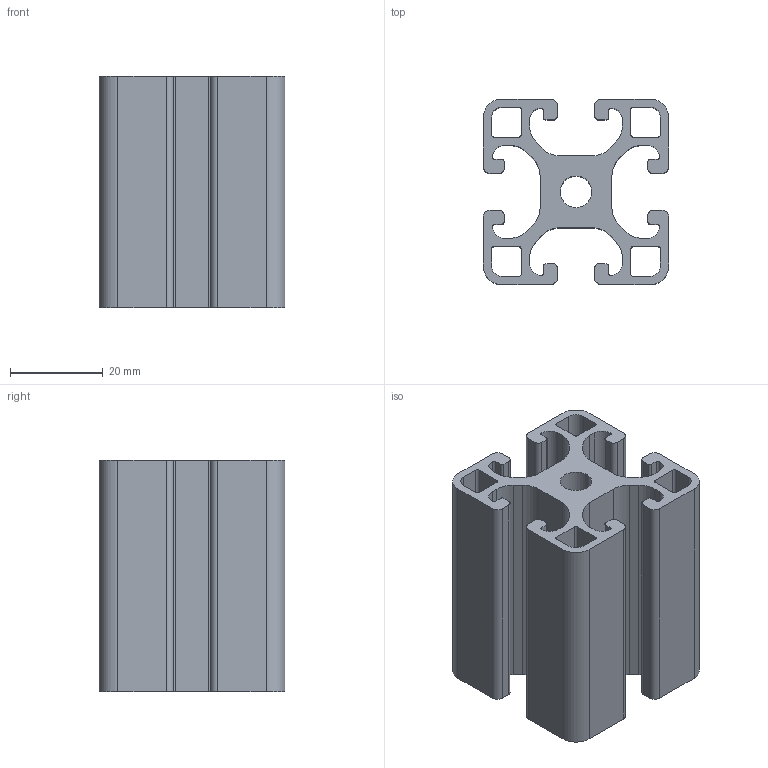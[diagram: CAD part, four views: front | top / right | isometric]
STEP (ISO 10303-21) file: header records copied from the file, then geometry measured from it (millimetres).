
FILE_DESCRIPTION (( 'STEP AP214' ), '1' );
FILE_NAME ('Transept Giltec-P84040L.STEP', '2012-10-30T09:34:24', ( 'Windows User' ), ( '' ), 'SwSTEP 2.0', 'SolidWorks 2013', '' );
FILE_SCHEMA (( 'AUTOMOTIVE_DESIGN' ));
Length unit declared in the file: millimetre
Products named in the file (1): Transept Giltec-P84040L
Bounding box: 40 x 40 x 50 mm (x, y, z)
Volume: 32854.9 mm3; surface area: 24314.9 mm2
Topology: 1 solids, 1 shells, 148 faces, 438 edges, 292 vertices
Faces by surface type: cylinder 78, plane 70
Entity records: 5052 total; most frequent: DIRECTION 892, CARTESIAN_POINT 879, ORIENTED_EDGE 876, EDGE_CURVE 438, AXIS2_PLACEMENT_3D 305, VERTEX_POINT 292, LINE 282, VECTOR 282
